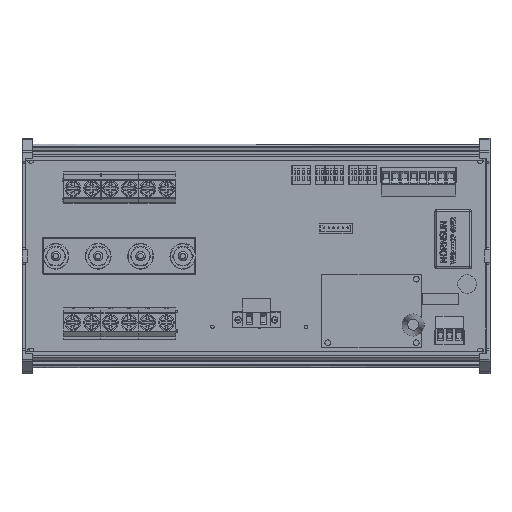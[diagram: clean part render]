
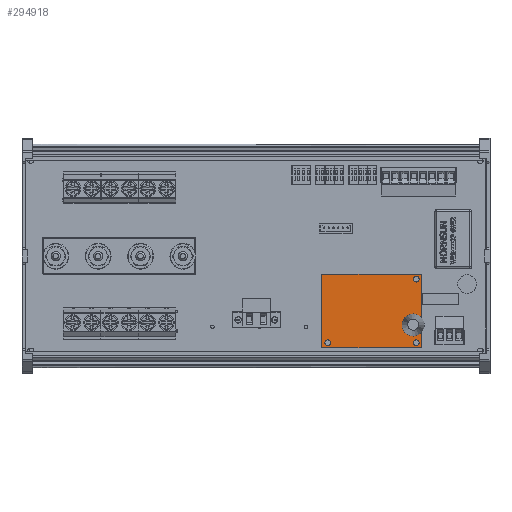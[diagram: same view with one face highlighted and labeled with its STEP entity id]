
A CAD part, top view. The second image highlights one B-rep face of the part: STEP entity #294918.
In plain terms, the highlighted planar face has unit normal (0, 0, 1).
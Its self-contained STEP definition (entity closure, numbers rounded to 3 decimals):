
#294604 = VERTEX_POINT('',#294605);
#294605 = CARTESIAN_POINT('',(123.,3.,13.2));
#294612 = PLANE('',#294613);
#294613 = AXIS2_PLACEMENT_3D('',#294614,#294615,#294616);
#294614 = CARTESIAN_POINT('',(123.,3.,11.6));
#294615 = DIRECTION('',(1.,0.,0.));
#294616 = DIRECTION('',(0.,0.,1.));
#294624 = PLANE('',#294625);
#294625 = AXIS2_PLACEMENT_3D('',#294626,#294627,#294628);
#294626 = CARTESIAN_POINT('',(123.,3.,11.6));
#294627 = DIRECTION('',(0.,1.,0.));
#294628 = DIRECTION('',(0.,-0.,1.));
#294665 = VERTEX_POINT('',#294666);
#294666 = CARTESIAN_POINT('',(123.,43.,13.2));
#294680 = PLANE('',#294681);
#294681 = AXIS2_PLACEMENT_3D('',#294682,#294683,#294684);
#294682 = CARTESIAN_POINT('',(123.,43.,11.6));
#294683 = DIRECTION('',(0.,1.,0.));
#294684 = DIRECTION('',(0.,-0.,1.));
#294692 = EDGE_CURVE('',#294604,#294665,#294693,.T.);
#294693 = SURFACE_CURVE('',#294694,(#294698,#294705),.PCURVE_S1.);
#294694 = LINE('',#294695,#294696);
#294695 = CARTESIAN_POINT('',(123.,3.,13.2));
#294696 = VECTOR('',#294697,1.);
#294697 = DIRECTION('',(0.,1.,0.));
#294698 = PCURVE('',#294612,#294699);
#294699 = DEFINITIONAL_REPRESENTATION('',(#294700),#294704);
#294700 = LINE('',#294701,#294702);
#294701 = CARTESIAN_POINT('',(1.6,0.));
#294702 = VECTOR('',#294703,1.);
#294703 = DIRECTION('',(0.,-1.));
#294704 = ( GEOMETRIC_REPRESENTATION_CONTEXT(2) 
PARAMETRIC_REPRESENTATION_CONTEXT() REPRESENTATION_CONTEXT('2D SPACE',''
  ) );
#294705 = PCURVE('',#294706,#294711);
#294706 = PLANE('',#294707);
#294707 = AXIS2_PLACEMENT_3D('',#294708,#294709,#294710);
#294708 = CARTESIAN_POINT('',(123.,3.,13.2));
#294709 = DIRECTION('',(0.,0.,1.));
#294710 = DIRECTION('',(1.,0.,-0.));
#294711 = DEFINITIONAL_REPRESENTATION('',(#294712),#294716);
#294712 = LINE('',#294713,#294714);
#294713 = CARTESIAN_POINT('',(0.,0.));
#294714 = VECTOR('',#294715,1.);
#294715 = DIRECTION('',(0.,1.));
#294716 = ( GEOMETRIC_REPRESENTATION_CONTEXT(2) 
PARAMETRIC_REPRESENTATION_CONTEXT() REPRESENTATION_CONTEXT('2D SPACE',''
  ) );
#294724 = VERTEX_POINT('',#294725);
#294725 = CARTESIAN_POINT('',(177.,3.,13.2));
#294732 = PLANE('',#294733);
#294733 = AXIS2_PLACEMENT_3D('',#294734,#294735,#294736);
#294734 = CARTESIAN_POINT('',(177.,3.,11.6));
#294735 = DIRECTION('',(1.,0.,0.));
#294736 = DIRECTION('',(0.,0.,1.));
#294775 = VERTEX_POINT('',#294776);
#294776 = CARTESIAN_POINT('',(177.,43.,13.2));
#294797 = EDGE_CURVE('',#294724,#294775,#294798,.T.);
#294798 = SURFACE_CURVE('',#294799,(#294803,#294810),.PCURVE_S1.);
#294799 = LINE('',#294800,#294801);
#294800 = CARTESIAN_POINT('',(177.,3.,13.2));
#294801 = VECTOR('',#294802,1.);
#294802 = DIRECTION('',(0.,1.,0.));
#294803 = PCURVE('',#294732,#294804);
#294804 = DEFINITIONAL_REPRESENTATION('',(#294805),#294809);
#294805 = LINE('',#294806,#294807);
#294806 = CARTESIAN_POINT('',(1.6,0.));
#294807 = VECTOR('',#294808,1.);
#294808 = DIRECTION('',(0.,-1.));
#294809 = ( GEOMETRIC_REPRESENTATION_CONTEXT(2) 
PARAMETRIC_REPRESENTATION_CONTEXT() REPRESENTATION_CONTEXT('2D SPACE',''
  ) );
#294810 = PCURVE('',#294706,#294811);
#294811 = DEFINITIONAL_REPRESENTATION('',(#294812),#294816);
#294812 = LINE('',#294813,#294814);
#294813 = CARTESIAN_POINT('',(54.,0.));
#294814 = VECTOR('',#294815,1.);
#294815 = DIRECTION('',(0.,1.));
#294816 = ( GEOMETRIC_REPRESENTATION_CONTEXT(2) 
PARAMETRIC_REPRESENTATION_CONTEXT() REPRESENTATION_CONTEXT('2D SPACE',''
  ) );
#294843 = EDGE_CURVE('',#294604,#294724,#294844,.T.);
#294844 = SURFACE_CURVE('',#294845,(#294849,#294856),.PCURVE_S1.);
#294845 = LINE('',#294846,#294847);
#294846 = CARTESIAN_POINT('',(123.,3.,13.2));
#294847 = VECTOR('',#294848,1.);
#294848 = DIRECTION('',(1.,0.,0.));
#294849 = PCURVE('',#294624,#294850);
#294850 = DEFINITIONAL_REPRESENTATION('',(#294851),#294855);
#294851 = LINE('',#294852,#294853);
#294852 = CARTESIAN_POINT('',(1.6,0.));
#294853 = VECTOR('',#294854,1.);
#294854 = DIRECTION('',(0.,1.));
#294855 = ( GEOMETRIC_REPRESENTATION_CONTEXT(2) 
PARAMETRIC_REPRESENTATION_CONTEXT() REPRESENTATION_CONTEXT('2D SPACE',''
  ) );
#294856 = PCURVE('',#294706,#294857);
#294857 = DEFINITIONAL_REPRESENTATION('',(#294858),#294862);
#294858 = LINE('',#294859,#294860);
#294859 = CARTESIAN_POINT('',(0.,0.));
#294860 = VECTOR('',#294861,1.);
#294861 = DIRECTION('',(1.,0.));
#294862 = ( GEOMETRIC_REPRESENTATION_CONTEXT(2) 
PARAMETRIC_REPRESENTATION_CONTEXT() REPRESENTATION_CONTEXT('2D SPACE',''
  ) );
#294890 = EDGE_CURVE('',#294665,#294775,#294891,.T.);
#294891 = SURFACE_CURVE('',#294892,(#294896,#294903),.PCURVE_S1.);
#294892 = LINE('',#294893,#294894);
#294893 = CARTESIAN_POINT('',(123.,43.,13.2));
#294894 = VECTOR('',#294895,1.);
#294895 = DIRECTION('',(1.,0.,0.));
#294896 = PCURVE('',#294680,#294897);
#294897 = DEFINITIONAL_REPRESENTATION('',(#294898),#294902);
#294898 = LINE('',#294899,#294900);
#294899 = CARTESIAN_POINT('',(1.6,0.));
#294900 = VECTOR('',#294901,1.);
#294901 = DIRECTION('',(0.,1.));
#294902 = ( GEOMETRIC_REPRESENTATION_CONTEXT(2) 
PARAMETRIC_REPRESENTATION_CONTEXT() REPRESENTATION_CONTEXT('2D SPACE',''
  ) );
#294903 = PCURVE('',#294706,#294904);
#294904 = DEFINITIONAL_REPRESENTATION('',(#294905),#294909);
#294905 = LINE('',#294906,#294907);
#294906 = CARTESIAN_POINT('',(0.,40.));
#294907 = VECTOR('',#294908,1.);
#294908 = DIRECTION('',(1.,0.));
#294909 = ( GEOMETRIC_REPRESENTATION_CONTEXT(2) 
PARAMETRIC_REPRESENTATION_CONTEXT() REPRESENTATION_CONTEXT('2D SPACE',''
  ) );
#294918 = ADVANCED_FACE('',(#294919),#294706,.T.);
#294919 = FACE_BOUND('',#294920,.T.);
#294920 = EDGE_LOOP('',(#294921,#294922,#294923,#294924));
#294921 = ORIENTED_EDGE('',*,*,#294692,.F.);
#294922 = ORIENTED_EDGE('',*,*,#294843,.T.);
#294923 = ORIENTED_EDGE('',*,*,#294797,.T.);
#294924 = ORIENTED_EDGE('',*,*,#294890,.F.);
